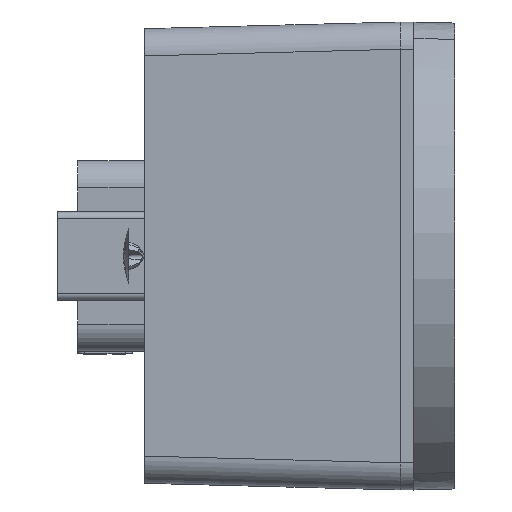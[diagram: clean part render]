
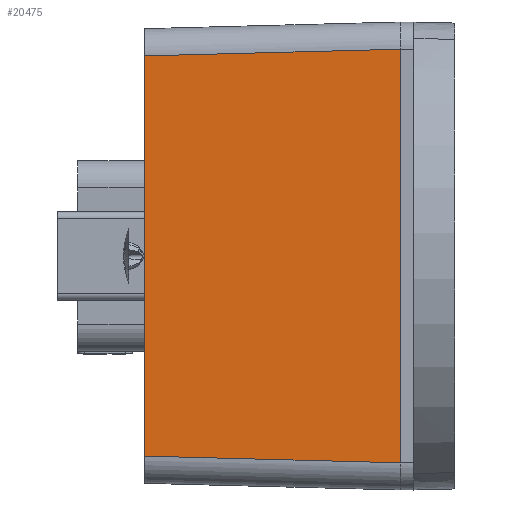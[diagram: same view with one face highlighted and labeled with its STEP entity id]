
A CAD part, left-side view. The second image highlights one B-rep face of the part: STEP entity #20475.
In plain terms, the highlighted planar face has unit normal (-1, 0.026, 0).
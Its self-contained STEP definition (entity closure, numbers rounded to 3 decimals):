
#1979=FACE_OUTER_BOUND('',#3134,.T.);
#3134=EDGE_LOOP('',(#16339,#16340,#16341,#16342));
#4665=LINE('',#34633,#6368);
#4679=LINE('',#34679,#6382);
#4683=LINE('',#34693,#6386);
#4684=LINE('',#34694,#6387);
#6368=VECTOR('',#24528,46.699);
#6382=VECTOR('',#24566,29.865);
#6386=VECTOR('',#24584,29.865);
#6387=VECTOR('',#24585,48.262);
#8904=VERTEX_POINT('',#34629);
#8906=VERTEX_POINT('',#34632);
#8926=VERTEX_POINT('',#34678);
#8929=VERTEX_POINT('',#34692);
#11501=EDGE_CURVE('',#8906,#8904,#4665,.T.);
#11524=EDGE_CURVE('',#8906,#8926,#4679,.T.);
#11531=EDGE_CURVE('',#8929,#8904,#4683,.T.);
#11532=EDGE_CURVE('',#8926,#8929,#4684,.T.);
#16339=ORIENTED_EDGE('',*,*,#11531,.F.);
#16340=ORIENTED_EDGE('',*,*,#11532,.F.);
#16341=ORIENTED_EDGE('',*,*,#11524,.F.);
#16342=ORIENTED_EDGE('',*,*,#11501,.T.);
#18906=PLANE('',#21520);
#20475=ADVANCED_FACE('',(#1979),#18906,.T.);
#21520=AXIS2_PLACEMENT_3D('',#34691,#24582,#24583);
#24528=DIRECTION('',(0.,0.,-1.));
#24566=DIRECTION('',(-0.026,-0.999,0.026));
#24582=DIRECTION('center_axis',(-1.,0.026,0.));
#24583=DIRECTION('ref_axis',(0.,0.,
1.));
#24584=DIRECTION('',(0.026,0.999,0.026));
#24585=DIRECTION('',(0.,0.,-1.));
#34629=CARTESIAN_POINT('',(-44.926,20.752,-23.35));
#34632=CARTESIAN_POINT('',(-44.926,20.752,23.35));
#34633=CARTESIAN_POINT('',(-44.926,20.752,23.35));
#34678=CARTESIAN_POINT('',(-45.707,-9.093,24.131));
#34679=CARTESIAN_POINT('',(-44.926,20.752,23.35));
#34691=CARTESIAN_POINT('Origin',(-45.707,-9.093,27.305));
#34692=CARTESIAN_POINT('',(-45.707,-9.093,-24.131));
#34693=CARTESIAN_POINT('',(-45.707,-9.093,-24.131));
#34694=CARTESIAN_POINT('',(-45.707,-9.093,24.131));
